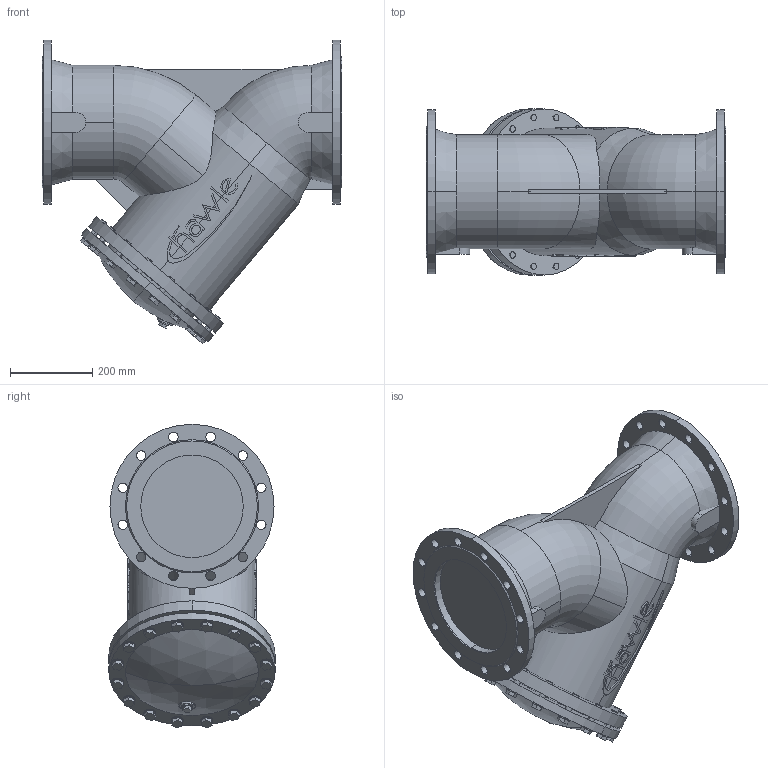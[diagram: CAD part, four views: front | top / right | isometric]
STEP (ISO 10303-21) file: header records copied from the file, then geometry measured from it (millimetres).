
FILE_DESCRIPTION(('STEP AP214'),'1');
FILE_NAME('S:/EK/USER/CAT6/3DHomepage_27-04-2012/9910/9910_PN10_DN250.stp','2013-03-12T09:27:10',(' '),(' '),'Spatial InterOp 3D',' ',' ');
FILE_SCHEMA(('automotive_design'));
Length unit declared in the file: millimetre
Products named in the file (84): 3D-Objekt
Bounding box: 730 x 405 x 739.8 mm (x, y, z)
Volume: 74501920 mm3; surface area: 3391587.1 mm2
Topology: 84 solids, 84 shells, 598 faces, 1286 edges, 858 vertices
Faces by surface type: plane 358, cylinder 224, cone 10, torus 4, sphere 2
Entity records: 23544 total; most frequent: CARTESIAN_POINT 3209, DIRECTION 3131, ORIENTED_EDGE 2572, EDGE_CURVE 1286, AXIS2_PLACEMENT_3D 1167, VERTEX_POINT 858, LINE 797, VECTOR 797
